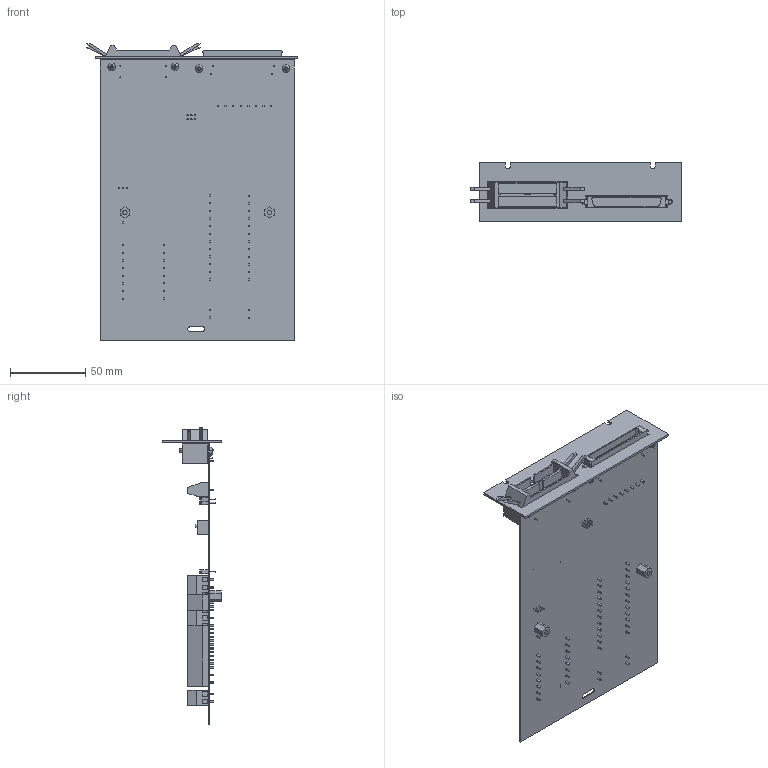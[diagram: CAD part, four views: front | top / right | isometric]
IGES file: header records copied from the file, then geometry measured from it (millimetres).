
Start section:  PTC IGES file: cd-cb-68t.igs
Global section: file name: cd-cb-68t.igs; native system: Pro/ENGINEER by Parametric Technology Corporation; preprocessor: 2006080; author: scarrasc; organization: Unknown; date: 080114.132217; units: inch
Bounding box: 140.66 x 39.37 x 197.97 mm (x, y, z)
Surface area: 78904.6 mm2 (no closed solid volume)
Topology: 0 solids, 0 shells, 1409 faces, 6654 edges, 6618 vertices
Faces by surface type: bspline 1167, revolution 242
